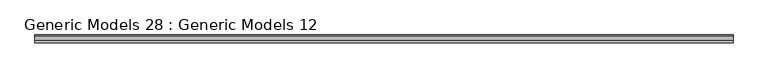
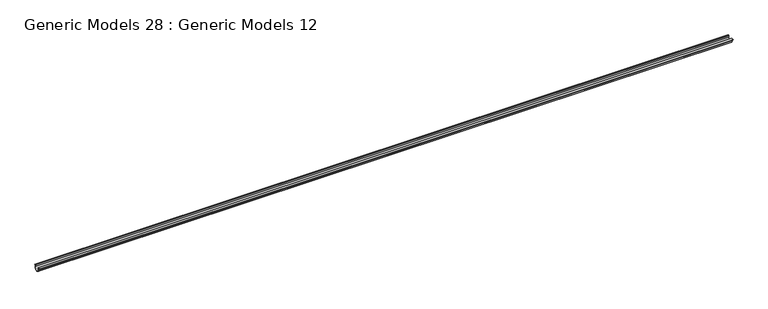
"""IFC4 building model written with IfcOpenShell, lengths in millimetres: proxy geometry, Generic Models 28 : Generic Models 12."""

from ifc_helpers import new_model, si_unit, point, frame, frame_2d, origin, place, context, project, spatial, polyline, circle_curve, trimmed, segment, composite_curve, outline, extrude, source, transform, mapped, element, save


def generic_models_28_generic_models_12_b416c1af(model_context):
    return source(origin(), model_context, "Body", "SweptSolid", [
        extrude(outline(composite_curve([segment(polyline([(-30676.5572361, 51000.0861468), (-30676.5572361, 51270.0), (-30656.5572361, 51270.0), (-30656.5572361, 51000.0861468)]), True, "CONTINUOUS"), segment(trimmed(circle_curve(frame_2d((-31056.5572361, 51000.0861468)), 400.0), [point((-30656.5572361, 51000.0861468))], [point((-31455.6403425, 50973.0181919))], False, "CARTESIAN"), True, "CONTINUOUS"), segment(polyline([(-31455.6403425, 50973.0181919), (-31455.6403425, 51270.0), (-31434.7590279, 51270.0), (-31434.7590279, 50963.1618363)]), True, "CONTINUOUS"), segment(trimmed(circle_curve(frame_2d((-31056.5572361, 51000.0861468)), 380.0), [point((-31434.7590279, 50963.1618363))], [point((-30676.5572361, 51000.0861468))], True, "CARTESIAN"), True, "CONTINUOUS")], self_intersect=False)), frame((-135400.5917799, 0.0, 0.0), z_axis=(1.0, 0.0, 0.0), x_axis=(0.0, 1.0, 0.0)), (0.0, 0.0, 1.0), 90801.5494501),
        extrude(outline(polyline([(-31657.768202, 51281.5481986), (-31657.768202, 51241.5481986), (-31677.768202, 51241.5481986), (-31677.768202, 51296.5481986), (-31417.2703389, 51296.5481986), (-31417.2703389, 51281.5481986), (-31657.768202, 51281.5481986)])), frame((-135400.5917799, 0.0, 0.0), z_axis=(1.0, 0.0, 0.0), x_axis=(0.0, 1.0, 0.0)), (0.0, 0.0, 1.0), 90801.5494501),
        extrude(outline(polyline([(-30705.9513115, 51280.595961), (-30627.7128717, 51287.4409375), (-30627.7128717, 51275.5326466), (-30690.9513115, 51270.0), (-30690.9513115, 51220.595961), (-30705.9513115, 51220.595961), (-30705.9513115, 51280.595961)])), frame((-135400.5917799, 0.0, 0.0), z_axis=(1.0, 0.0, 0.0), x_axis=(0.0, 1.0, 0.0)), (0.0, 0.0, 1.0), 90801.5494501),
    ])


if __name__ == "__main__":
    model = new_model("IFC4")
    model_context = context("Model", 3, world=origin())
    ifc_project = project(units=[si_unit("LENGTHUNIT", "METRE", prefix="MILLI")], contexts=[model_context])
    site = spatial("IfcSite", under=ifc_project)
    building = spatial("IfcBuilding", under=site)
    placement = place(None, origin())
    generic_models_28_generic_models_12_shape = generic_models_28_generic_models_12_b416c1af(model_context)
    element("IfcBuildingElementProxy", 1, Name="Generic Models 28 : Generic Models 12", ObjectType="Generic Models 28 : Generic Models 12", at=placement, inside=building, context=model_context, shape_type="MappedRepresentation", body=[
        mapped(generic_models_28_generic_models_12_shape, transform((0.0, 0.0, 0.0), x_axis=(1.0, 0.0, 0.0), y_axis=(0.0, 1.0, 0.0), z_axis=(0.0, 0.0, 1.0))),
    ])
    save(model, "model.ifc")
